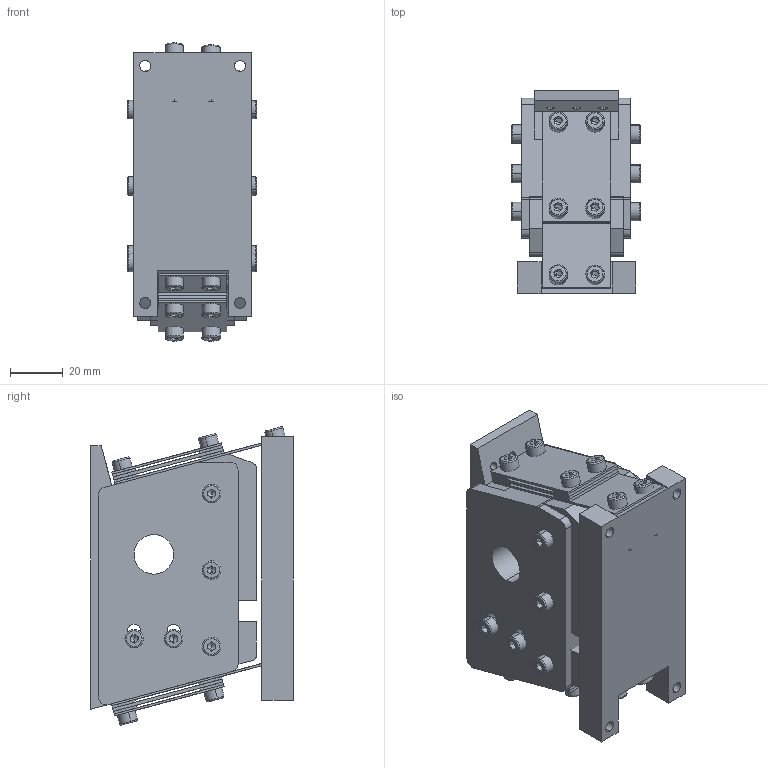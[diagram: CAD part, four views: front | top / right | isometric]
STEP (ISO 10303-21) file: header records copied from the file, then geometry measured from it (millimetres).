
FILE_DESCRIPTION (( 'STEP AP203' ), '1' );
FILE_NAME ('100 眻盄 假蚾芞.STEP', '2024-04-18T08:14:07', ( '' ), ( '' ), 'SwSTEP 2.0', 'SolidWorks 2022', '' );
FILE_SCHEMA (( 'CONFIG_CONTROL_DESIGN' ));
Length unit declared in the file: millimetre
Products named in the file (3): hexagon socket head cap screws gb_GB_FASTENER_SCREWS_HSHCS M4X6-N; 100 眻盄蚾饜芞00; 100  眻盄  假蚾芞
Assembly tree (23 placements, depth 2):
  100  眻盄  假蚾芞
    100 眻盄蚾饜芞00
    hexagon socket head cap screws gb_GB_FASTENER_SCREWS_HSHCS M4X6-N  x22
Bounding box: 49 x 76.94 x 113.19 mm (x, y, z)
Volume: 323246.7 mm3; surface area: 89405.5 mm2
Topology: 40 solids, 40 shells, 883 faces, 2125 edges, 1322 vertices
Faces by surface type: plane 489, cylinder 262, cone 88, torus 44
Entity records: 12560 total; most frequent: CARTESIAN_POINT 2222, DIRECTION 2031, ORIENTED_EDGE 1894, EDGE_CURVE 947, AXIS2_PLACEMENT_3D 744, VERTEX_POINT 629, VECTOR 543, LINE 543
